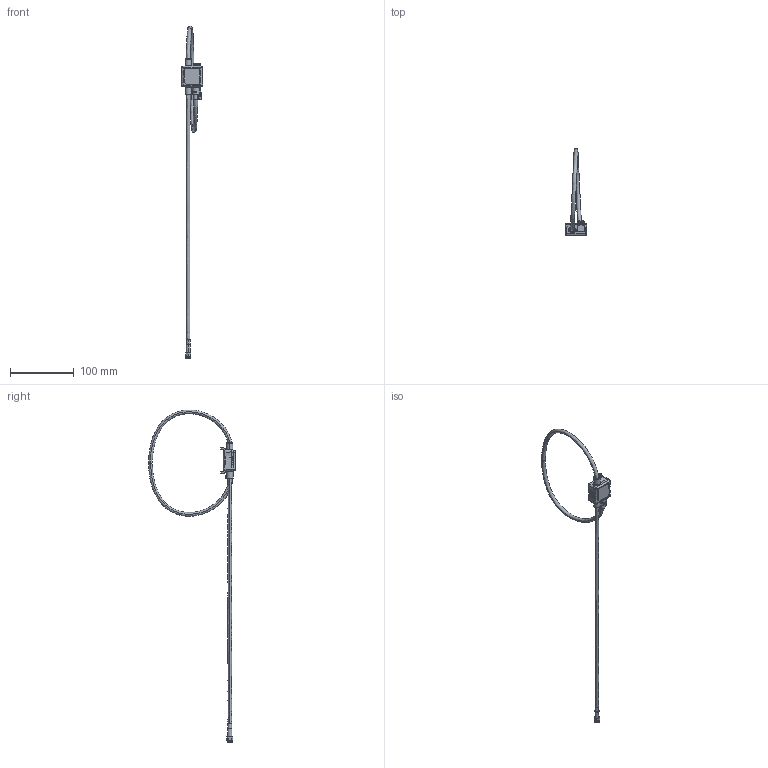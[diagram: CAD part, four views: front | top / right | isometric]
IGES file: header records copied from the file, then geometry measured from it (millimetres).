
Start section: Elysium IGES Interface
Global section: file name: C:\Users\ads\Desktop\90.M7.99.025.0.igs; native system: Creo Elements/Direct Modeling 20.1  10-Mar-2018; preprocessor: Creo Element/Direct IGES_3D V2.2; author: Unknown; organization: Unknown; date: 20200514.153328; units: millimetre
Bounding box: 33.69 x 136.76 x 522.72 mm (x, y, z)
Volume: 44964 mm3; surface area: 24692.7 mm2
Topology: 1 solids, 1 shells, 963 faces, 2406 edges, 1441 vertices
Faces by surface type: bspline 963
